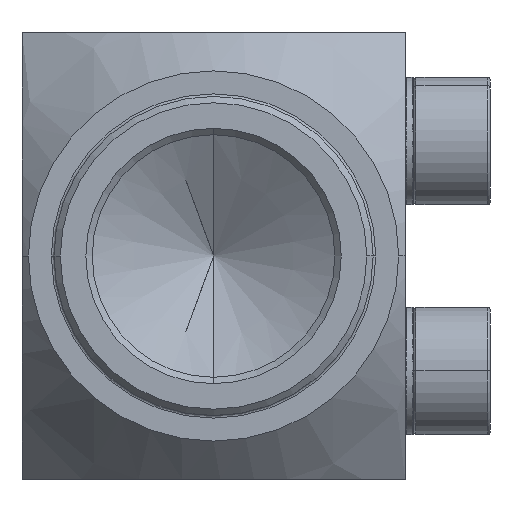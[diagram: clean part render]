
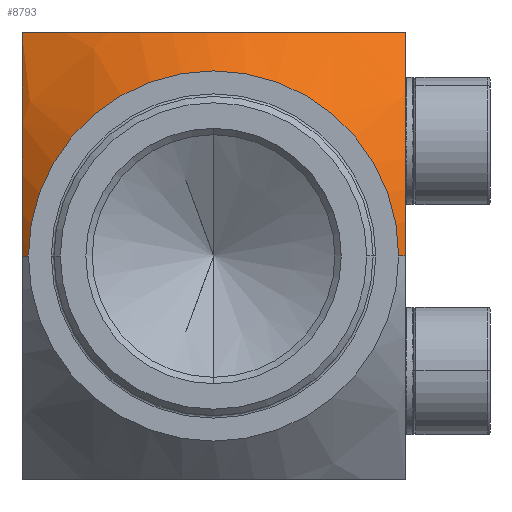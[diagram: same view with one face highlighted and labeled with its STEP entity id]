
A CAD part, front view. The second image highlights one B-rep face of the part: STEP entity #8793.
In plain terms, the highlighted conical face has half-angle 45 degrees and reference radius 23.5 mm.
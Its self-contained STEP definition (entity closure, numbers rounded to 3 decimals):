
#9 = CARTESIAN_POINT ( 'NONE',  ( 23.5, 159., 0. ) ) ;
#155 = FACE_OUTER_BOUND ( 'NONE', #7490, .T. ) ;
#185 = CARTESIAN_POINT ( 'NONE',  ( -15., 151.504, 5.63 ) ) ;
#350 = LINE ( 'NONE', #9, #5746 ) ;
#530 = CARTESIAN_POINT ( 'NONE',  ( -1.742, 153.083, 17.5 ) ) ;
#566 = CARTESIAN_POINT ( 'NONE',  ( 15., 151.022, 4.062 ) ) ;
#827 = CARTESIAN_POINT ( 'NONE',  ( 15., 158.549, 17.5 ) ) ;
#915 = CARTESIAN_POINT ( 'NONE',  ( -15., 150.735, 2.87 ) ) ;
#1246 = CARTESIAN_POINT ( 'NONE',  ( 10.331, 155.798, 17.5 ) ) ;
#1280 = CARTESIAN_POINT ( 'NONE',  ( -3.419, 153.32, 17.5 ) ) ;
#1304 = CARTESIAN_POINT ( 'NONE',  ( 15., 151.797, 6.406 ) ) ;
#1342 = CARTESIAN_POINT ( 'NONE',  ( -14.5, 150., 0. ) ) ;
#1343 = VERTEX_POINT ( 'NONE', #827 ) ;
#1393 = CARTESIAN_POINT ( 'NONE',  ( 0., 159., 0. ) ) ;
#1660 = CARTESIAN_POINT ( 'NONE',  ( -15., 150.517, 0.827 ) ) ;
#1758 = ORIENTED_EDGE ( 'NONE', *, *, #6915, .T. ) ;
#1851 = B_SPLINE_CURVE_WITH_KNOTS ( 'NONE', 3,
 ( #3489, #7821, #4230, #9305, #4961, #566, #5702, #1304, #6433, #2044, #7152, #2787, #7863, #3530, #8596 ),
 .UNSPECIFIED., .F., .F.,
 ( 4, 2, 1, 2, 2, 2, 2, 4 ),
 ( 0.037, 0.038, 0.039, 0.042, 0.044, 0.047, 0.052, 0.056 ),
 .UNSPECIFIED. ) ;
#1939 = ORIENTED_EDGE ( 'NONE', *, *, #7292, .T. ) ;
#1953 = CARTESIAN_POINT ( 'NONE',  ( 13.862, 157.809, 17.5 ) ) ;
#1991 = CARTESIAN_POINT ( 'NONE',  ( 7.244, 154.431, 17.5 ) ) ;
#2019 = CARTESIAN_POINT ( 'NONE',  ( -6.651, 154.187, 17.5 ) ) ;
#2044 = CARTESIAN_POINT ( 'NONE',  ( 15., 152.802, 8.644 ) ) ;
#2295 = ORIENTED_EDGE ( 'NONE', *, *, #8387, .T. ) ;
#2360 = CARTESIAN_POINT ( 'NONE',  ( -15., 157.562, 16.2 ) ) ;
#2396 = CARTESIAN_POINT ( 'NONE',  ( -15., 150.5, 0. ) ) ;
#2722 = CARTESIAN_POINT ( 'NONE',  ( 5.312, 153.778, 17.5 ) ) ;
#2756 = CARTESIAN_POINT ( 'NONE',  ( -9.128, 155.23, 17.5 ) ) ;
#2787 = CARTESIAN_POINT ( 'NONE',  ( 15., 154.797, 12.18 ) ) ;
#3096 = CARTESIAN_POINT ( 'NONE',  ( -15., 154.797, 12.18 ) ) ;
#3198 = ORIENTED_EDGE ( 'NONE', *, *, #7268, .F. ) ;
#3327 = CARTESIAN_POINT ( 'NONE',  ( -23.5, 159., 0. ) ) ;
#3468 = CARTESIAN_POINT ( 'NONE',  ( 2.661, 153.154, 17.5 ) ) ;
#3489 = CARTESIAN_POINT ( 'NONE',  ( 15., 150.5, 0. ) ) ;
#3500 = CARTESIAN_POINT ( 'NONE',  ( -10.948, 156.136, 17.5 ) ) ;
#3530 = CARTESIAN_POINT ( 'NONE',  ( 15., 157.562, 16.2 ) ) ;
#3675 = DIRECTION ( 'NONE',  ( 0.707, 0.707, 0. ) ) ;
#3856 = CARTESIAN_POINT ( 'NONE',  ( -15., 152.802, 8.644 ) ) ;
#3929 = LINE ( 'NONE', #3327, #7744 ) ;
#4091 = DIRECTION ( 'NONE',  ( -0.707, 0.707, 0. ) ) ;
#4130 = ORIENTED_EDGE ( 'NONE', *, *, #7186, .F. ) ;
#4182 = CARTESIAN_POINT ( 'NONE',  ( 15., 158.549, 17.5 ) ) ;
#4202 = DIRECTION ( 'NONE',  ( 0., -1., 0. ) ) ;
#4212 = CARTESIAN_POINT ( 'NONE',  ( -0.376, 153.001, 17.5 ) ) ;
#4229 = ORIENTED_EDGE ( 'NONE', *, *, #8997, .T. ) ;
#4230 = CARTESIAN_POINT ( 'NONE',  ( 15., 150.517, 0.827 ) ) ;
#4242 = CARTESIAN_POINT ( 'NONE',  ( -13.874, 157.816, 17.5 ) ) ;
#4392 = AXIS2_PLACEMENT_3D ( 'NONE', #8526, #4202, #9274 ) ;
#4576 = CARTESIAN_POINT ( 'NONE',  ( -15., 151.797, 6.406 ) ) ;
#4603 = VERTEX_POINT ( 'NONE', #1342 ) ;
#4940 = CARTESIAN_POINT ( 'NONE',  ( -1.4, 153.053, 17.5 ) ) ;
#4946 = VERTEX_POINT ( 'NONE', #5139 ) ;
#4961 = CARTESIAN_POINT ( 'NONE',  ( 15., 150.735, 2.87 ) ) ;
#5139 = CARTESIAN_POINT ( 'NONE',  ( -15., 150.5, 0. ) ) ;
#5147 = CARTESIAN_POINT ( 'NONE',  ( 15., 150.5, 0. ) ) ;
#5309 = CARTESIAN_POINT ( 'NONE',  ( -15., 151.022, 4.062 ) ) ;
#5413 = VERTEX_POINT ( 'NONE', #5147 ) ;
#5649 = CARTESIAN_POINT ( 'NONE',  ( 12.701, 157.101, 17.5 ) ) ;
#5683 = CARTESIAN_POINT ( 'NONE',  ( -2.755, 153.203, 17.5 ) ) ;
#5702 = CARTESIAN_POINT ( 'NONE',  ( 15., 151.504, 5.63 ) ) ;
#5746 = VECTOR ( 'NONE', #3675, 1000. ) ;
#5819 = VERTEX_POINT ( 'NONE', #7781 ) ;
#6051 = CARTESIAN_POINT ( 'NONE',  ( -15., 150.585, 1.648 ) ) ;
#6314 = CARTESIAN_POINT ( 'NONE',  ( -15., 158.549, 17.5 ) ) ;
#6374 = CARTESIAN_POINT ( 'NONE',  ( 9.12, 155.201, 17.5 ) ) ;
#6408 = CARTESIAN_POINT ( 'NONE',  ( -5.382, 153.764, 17.5 ) ) ;
#6433 = CARTESIAN_POINT ( 'NONE',  ( 15., 152.445, 7.911 ) ) ;
#6510 = DIRECTION ( 'NONE',  ( 0., 1., 0. ) ) ;
#6743 = CARTESIAN_POINT ( 'NONE',  ( -15., 158.549, 17.5 ) ) ;
#6773 = CARTESIAN_POINT ( 'NONE',  ( -15., 150.5, 0.411 ) ) ;
#6915 = EDGE_CURVE ( 'NONE', #5819, #5413, #350, .T. ) ;
#7096 = CARTESIAN_POINT ( 'NONE',  ( 6.608, 154.196, 17.5 ) ) ;
#7132 = CARTESIAN_POINT ( 'NONE',  ( -8.514, 154.953, 17.5 ) ) ;
#7152 = CARTESIAN_POINT ( 'NONE',  ( 15., 153.943, 10.799 ) ) ;
#7186 = EDGE_CURVE ( 'NONE', #4603, #4946, #3929, .T. ) ;
#7234 = DIRECTION ( 'NONE',  ( -1., 0., 0. ) ) ;
#7268 = EDGE_CURVE ( 'NONE', #5819, #4603, #7309, .T. ) ;
#7292 = EDGE_CURVE ( 'NONE', #5413, #1343, #1851, .T. ) ;
#7309 = CIRCLE ( 'NONE', #4392, 14.5 ) ;
#7451 = CARTESIAN_POINT ( 'NONE',  ( -15., 156.605, 14.881 ) ) ;
#7453 = CONICAL_SURFACE ( 'NONE', #8161, 23.5, 0.785 ) ;
#7490 = EDGE_LOOP ( 'NONE', ( #3198, #1758, #1939, #2295, #4229, #4130 ) ) ;
#7529 = VERTEX_POINT ( 'NONE', #6314 ) ;
#7700 = B_SPLINE_CURVE_WITH_KNOTS ( 'NONE', 3,
 ( #6743, #2360, #7451, #3096, #8181, #3856, #8911, #4576, #185, #5309, #915, #6051, #1660, #6773, #2396 ),
 .UNSPECIFIED., .F., .F.,
 ( 4, 2, 2, 2, 2, 1, 2, 4 ),
 ( 0.062, 0.067, 0.072, 0.074, 0.077, 0.079, 0.08, 0.082 ),
 .UNSPECIFIED. ) ;
#7744 = VECTOR ( 'NONE', #4091, 1000. ) ;
#7781 = CARTESIAN_POINT ( 'NONE',  ( 14.5, 150., 0. ) ) ;
#7797 = CARTESIAN_POINT ( 'NONE',  ( 4.65, 153.596, 17.5 ) ) ;
#7821 = CARTESIAN_POINT ( 'NONE',  ( 15., 150.5, 0.411 ) ) ;
#7833 = CARTESIAN_POINT ( 'NONE',  ( -10.345, 155.822, 17.5 ) ) ;
#7863 = CARTESIAN_POINT ( 'NONE',  ( 15., 156.605, 14.881 ) ) ;
#8161 = AXIS2_PLACEMENT_3D ( 'NONE', #1393, #6510, #7234 ) ;
#8181 = CARTESIAN_POINT ( 'NONE',  ( -15., 153.943, 10.799 ) ) ;
#8194 = B_SPLINE_CURVE_WITH_KNOTS ( 'NONE', 3,
 ( #4182, #1953, #5649, #1246, #6374, #1991, #7096, #2722, #7797, #3468, #8540, #4212, #9283, #4940, #530, #5683, #1280, #6408, #2019, #7132, #2756, #7833, #3500, #8574, #4242, #9315 ),
 .UNSPECIFIED., .F., .F.,
 ( 4, 2, 2, 2, 2, 2, 2, 2, 2, 2, 2, 2, 4 ),
 ( 0.046, 0.05, 0.054, 0.056, 0.058, 0.062, 0.063, 0.064, 0.066, 0.071, 0.073, 0.075, 0.079 ),
 .UNSPECIFIED. ) ;
#8387 = EDGE_CURVE ( 'NONE', #1343, #7529, #8194, .T. ) ;
#8526 = CARTESIAN_POINT ( 'NONE',  ( 0., 150., 0. ) ) ;
#8540 = CARTESIAN_POINT ( 'NONE',  ( 1.321, 152.997, 17.5 ) ) ;
#8574 = CARTESIAN_POINT ( 'NONE',  ( -12.725, 157.115, 17.5 ) ) ;
#8596 = CARTESIAN_POINT ( 'NONE',  ( 15., 158.549, 17.5 ) ) ;
#8793 = ADVANCED_FACE ( 'NONE', ( #155 ), #7453, .T. ) ;
#8911 = CARTESIAN_POINT ( 'NONE',  ( -15., 152.445, 7.911 ) ) ;
#8997 = EDGE_CURVE ( 'NONE', #7529, #4946, #7700, .T. ) ;
#9274 = DIRECTION ( 'NONE',  ( -1., 0., 0. ) ) ;
#9283 = CARTESIAN_POINT ( 'NONE',  ( -0.717, 153.011, 17.5 ) ) ;
#9305 = CARTESIAN_POINT ( 'NONE',  ( 15., 150.585, 1.648 ) ) ;
#9315 = CARTESIAN_POINT ( 'NONE',  ( -15., 158.549, 17.5 ) ) ;
